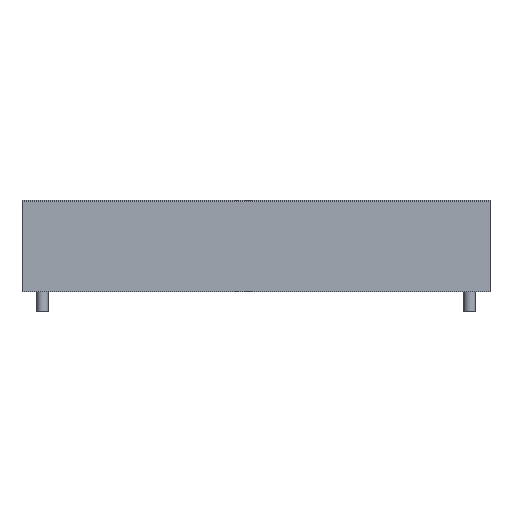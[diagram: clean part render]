
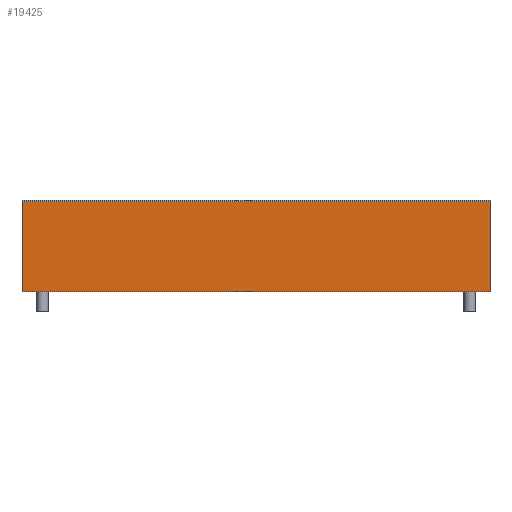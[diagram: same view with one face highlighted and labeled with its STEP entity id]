
A CAD part, left-side view. The second image highlights one B-rep face of the part: STEP entity #19425.
In plain terms, the highlighted planar face has unit normal (-1, 0, 0).
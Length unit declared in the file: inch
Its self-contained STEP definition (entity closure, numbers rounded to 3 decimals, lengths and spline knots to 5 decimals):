
#2 = VERTEX_POINT ( 'NONE', #8934 ) ;
#237 = VERTEX_POINT ( 'NONE', #16707 ) ;
#893 = ORIENTED_EDGE ( 'NONE', *, *, #19619, .T. ) ;
#2666 = CARTESIAN_POINT ( 'NONE',  ( 0.89307, 4.48121, 3.91648 ) ) ;
#4523 = VECTOR ( 'NONE', #17499, 39.37008 ) ;
#4654 = VECTOR ( 'NONE', #22550, 39.37008 ) ;
#5184 = LINE ( 'NONE', #9690, #4654 ) ;
#6081 = VECTOR ( 'NONE', #19663, 39.37008 ) ;
#6264 = LINE ( 'NONE', #8237, #15529 ) ;
#6841 = LINE ( 'NONE', #19883, #4523 ) ;
#7477 = EDGE_CURVE ( 'NONE', #237, #16423, #22055, .T. ) ;
#7760 = EDGE_CURVE ( 'NONE', #19307, #2, #5184, .T. ) ;
#7959 = DIRECTION ( 'NONE',  ( 1., 0., 0. ) ) ;
#8237 = CARTESIAN_POINT ( 'NONE',  ( 0.89307, 4.48121, 3.93148 ) ) ;
#8934 = CARTESIAN_POINT ( 'NONE',  ( 0.89307, -0.11879, 3.03148 ) ) ;
#9690 = CARTESIAN_POINT ( 'NONE',  ( 0.89307, 4.48121, 3.03148 ) ) ;
#9834 = EDGE_LOOP ( 'NONE', ( #21056, #26110, #893, #26525 ) ) ;
#12963 = CARTESIAN_POINT ( 'NONE',  ( 0.89307, 4.48121, 3.91648 ) ) ;
#13984 = DIRECTION ( 'NONE',  ( 0., 1., 0. ) ) ;
#15529 = VECTOR ( 'NONE', #21539, 39.37008 ) ;
#16423 = VERTEX_POINT ( 'NONE', #12963 ) ;
#16645 = EDGE_CURVE ( 'NONE', #237, #2, #6841, .T. ) ;
#16707 = CARTESIAN_POINT ( 'NONE',  ( 0.89307, -0.11879, 3.91648 ) ) ;
#17299 = AXIS2_PLACEMENT_3D ( 'NONE', #25322, #7959, #13984 ) ;
#17399 = CARTESIAN_POINT ( 'NONE',  ( 0.89307, 4.48121, 3.03148 ) ) ;
#17499 = DIRECTION ( 'NONE',  ( 0., 0., -1. ) ) ;
#17679 = FACE_OUTER_BOUND ( 'NONE', #9834, .T. ) ;
#19307 = VERTEX_POINT ( 'NONE', #17399 ) ;
#19425 = ADVANCED_FACE ( 'NONE', ( #17679 ), #21747, .F. ) ;
#19619 = EDGE_CURVE ( 'NONE', #16423, #19307, #6264, .T. ) ;
#19663 = DIRECTION ( 'NONE',  ( 0., 1., 0. ) ) ;
#19883 = CARTESIAN_POINT ( 'NONE',  ( 0.89307, -0.11879, 3.93148 ) ) ;
#21056 = ORIENTED_EDGE ( 'NONE', *, *, #16645, .F. ) ;
#21539 = DIRECTION ( 'NONE',  ( 0., 0., -1. ) ) ;
#21747 = PLANE ( 'NONE',  #17299 ) ;
#22055 = LINE ( 'NONE', #2666, #6081 ) ;
#22550 = DIRECTION ( 'NONE',  ( 0., -1., 0. ) ) ;
#25322 = CARTESIAN_POINT ( 'NONE',  ( 0.89307, 4.48121, 3.93148 ) ) ;
#26110 = ORIENTED_EDGE ( 'NONE', *, *, #7477, .T. ) ;
#26525 = ORIENTED_EDGE ( 'NONE', *, *, #7760, .T. ) ;
